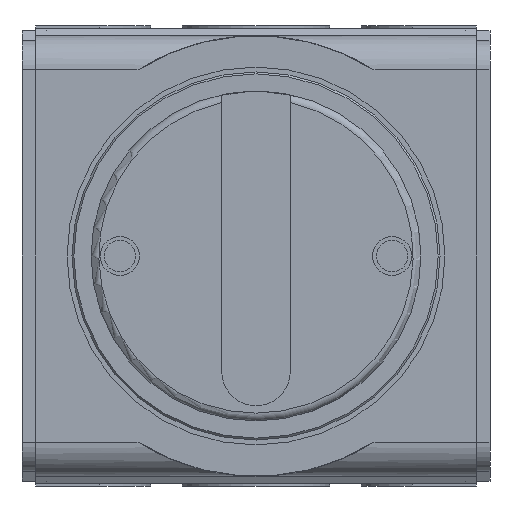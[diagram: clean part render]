
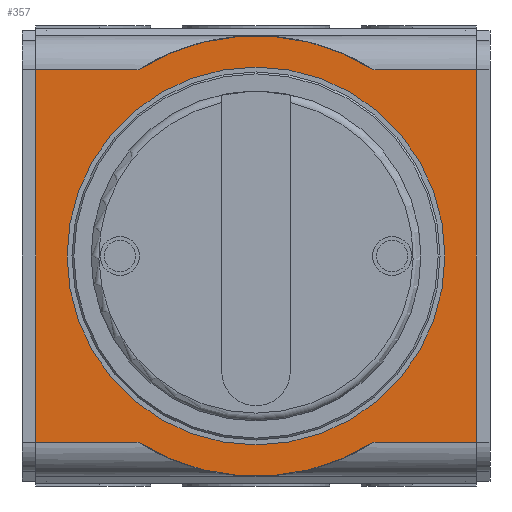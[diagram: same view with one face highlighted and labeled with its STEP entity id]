
A CAD part, front view. The second image highlights one B-rep face of the part: STEP entity #357.
In plain terms, the highlighted planar face has unit normal (0, -1, 0).
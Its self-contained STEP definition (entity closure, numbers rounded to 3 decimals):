
#357 = ADVANCED_FACE( '', ( #885, #886 ), #887, .F. );
#885 = FACE_BOUND( '', #1623, .T. );
#886 = FACE_OUTER_BOUND( '', #1624, .T. );
#887 = PLANE( '', #1625 );
#1623 = EDGE_LOOP( '', ( #2601 ) );
#1624 = EDGE_LOOP( '', ( #2602, #2603, #2604, #2605, #2606, #2607, #2608, #2609 ) );
#1625 = AXIS2_PLACEMENT_3D( '', #2610, #2611, #2612 );
#2601 = ORIENTED_EDGE( '', *, *, #4179, .F. );
#2602 = ORIENTED_EDGE( '', *, *, #4180, .T. );
#2603 = ORIENTED_EDGE( '', *, *, #4181, .T. );
#2604 = ORIENTED_EDGE( '', *, *, #4182, .T. );
#2605 = ORIENTED_EDGE( '', *, *, #4183, .T. );
#2606 = ORIENTED_EDGE( '', *, *, #4184, .F. );
#2607 = ORIENTED_EDGE( '', *, *, #4185, .T. );
#2608 = ORIENTED_EDGE( '', *, *, #4186, .F. );
#2609 = ORIENTED_EDGE( '', *, *, #4130, .F. );
#2610 = CARTESIAN_POINT( '', ( 22.5, 0., 19. ) );
#2611 = DIRECTION( '', ( 0., 1., 0. ) );
#2612 = DIRECTION( '', ( 0., 0., 1. ) );
#4130 = EDGE_CURVE( '', #4943, #4945, #4946, .T. );
#4179 = EDGE_CURVE( '', #5022, #5022, #5023, .T. );
#4180 = EDGE_CURVE( '', #4943, #5024, #5025, .T. );
#4181 = EDGE_CURVE( '', #5024, #5026, #5027, .T. );
#4182 = EDGE_CURVE( '', #5026, #5028, #5029, .T. );
#4183 = EDGE_CURVE( '', #5028, #5030, #5031, .T. );
#4184 = EDGE_CURVE( '', #5032, #5030, #5033, .T. );
#4185 = EDGE_CURVE( '', #5032, #5034, #5035, .T. );
#4186 = EDGE_CURVE( '', #4945, #5034, #5036, .T. );
#4943 = VERTEX_POINT( '', #6048 );
#4945 = VERTEX_POINT( '', #6050 );
#4946 = LINE( '', #6051, #6052 );
#5022 = VERTEX_POINT( '', #6153 );
#5023 = CIRCLE( '', #6154, 19.3 );
#5024 = VERTEX_POINT( '', #6155 );
#5025 = LINE( '', #6156, #6157 );
#5026 = VERTEX_POINT( '', #6158 );
#5027 = CIRCLE( '', #6159, 22.5 );
#5028 = VERTEX_POINT( '', #6160 );
#5029 = LINE( '', #6161, #6162 );
#5030 = VERTEX_POINT( '', #6163 );
#5031 = LINE( '', #6164, #6165 );
#5032 = VERTEX_POINT( '', #6166 );
#5033 = LINE( '', #6167, #6168 );
#5034 = VERTEX_POINT( '', #6169 );
#5035 = CIRCLE( '', #6170, 22.5 );
#5036 = LINE( '', #6171, #6172 );
#6048 = CARTESIAN_POINT( '', ( 22.5, 0., 19. ) );
#6050 = CARTESIAN_POINT( '', ( 22.5, 0., -19. ) );
#6051 = CARTESIAN_POINT( '', ( 22.5, 0., 19. ) );
#6052 = VECTOR( '', #7239, 1000. );
#6153 = CARTESIAN_POINT( '', ( 0., 0., -19.3 ) );
#6154 = AXIS2_PLACEMENT_3D( '', #7298, #7299, #7300 );
#6155 = CARTESIAN_POINT( '', ( 12.052, 0., 19. ) );
#6156 = CARTESIAN_POINT( '', ( 22.5, 0., 19. ) );
#6157 = VECTOR( '', #7301, 1000. );
#6158 = CARTESIAN_POINT( '', ( -12.052, 0., 19. ) );
#6159 = AXIS2_PLACEMENT_3D( '', #7302, #7303, #7304 );
#6160 = CARTESIAN_POINT( '', ( -22.5, 0., 19. ) );
#6161 = CARTESIAN_POINT( '', ( 22.5, 0., 19. ) );
#6162 = VECTOR( '', #7305, 1000. );
#6163 = CARTESIAN_POINT( '', ( -22.5, 0., -19. ) );
#6164 = CARTESIAN_POINT( '', ( -22.5, 0., 19. ) );
#6165 = VECTOR( '', #7306, 1000. );
#6166 = CARTESIAN_POINT( '', ( -12.052, 0., -19. ) );
#6167 = CARTESIAN_POINT( '', ( 22.5, 0., -19. ) );
#6168 = VECTOR( '', #7307, 1000. );
#6169 = CARTESIAN_POINT( '', ( 12.052, 0., -19. ) );
#6170 = AXIS2_PLACEMENT_3D( '', #7308, #7309, #7310 );
#6171 = CARTESIAN_POINT( '', ( 22.5, 0., -19. ) );
#6172 = VECTOR( '', #7311, 1000. );
#7239 = DIRECTION( '', ( 0., 0., -1. ) );
#7298 = CARTESIAN_POINT( '', ( 0., 0., 0. ) );
#7299 = DIRECTION( '', ( 0., -1., 0. ) );
#7300 = DIRECTION( '', ( 0., 0., -1. ) );
#7301 = DIRECTION( '', ( -1., 0., 0. ) );
#7302 = CARTESIAN_POINT( '', ( 0., 0., 0. ) );
#7303 = DIRECTION( '', ( 0., -1., 0. ) );
#7304 = DIRECTION( '', ( 0., 0., -1. ) );
#7305 = DIRECTION( '', ( -1., 0., 0. ) );
#7306 = DIRECTION( '', ( 0., 0., -1. ) );
#7307 = DIRECTION( '', ( -1., 0., 0. ) );
#7308 = CARTESIAN_POINT( '', ( 0., 0., 0. ) );
#7309 = DIRECTION( '', ( 0., -1., 0. ) );
#7310 = DIRECTION( '', ( 0., 0., -1. ) );
#7311 = DIRECTION( '', ( -1., 0., 0. ) );
